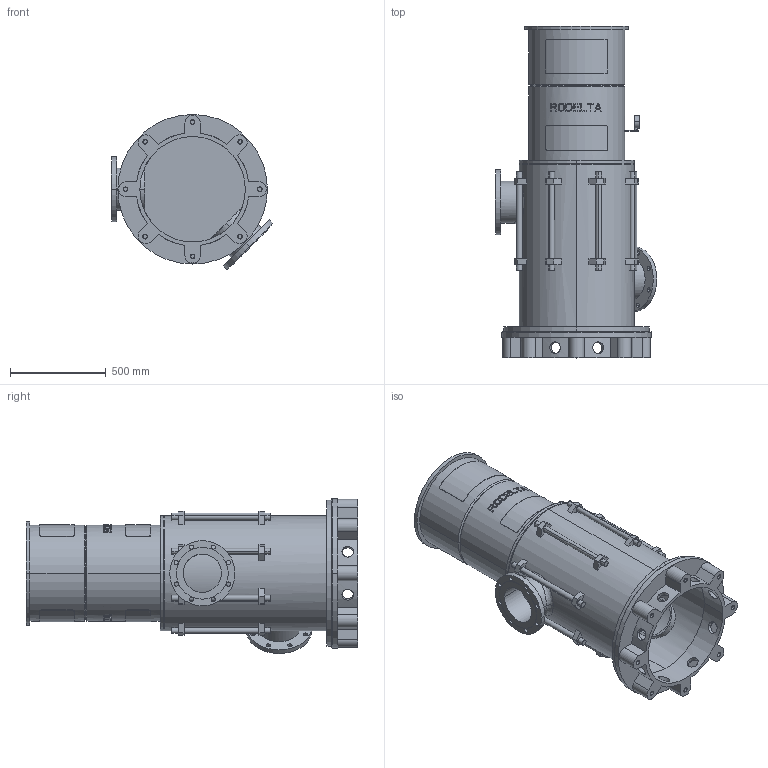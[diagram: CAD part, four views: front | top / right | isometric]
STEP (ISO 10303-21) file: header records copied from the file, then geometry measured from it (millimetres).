
FILE_DESCRIPTION((''),'2;1');
FILE_NAME('LS8_1TR_0GR','2025-10-15T15:16:37',('Lyritlocal'),(''),'CREO PARAMETRIC BY PTC INC, 2022014','CREO PARAMETRIC BY PTC INC, 2022014','');
FILE_SCHEMA(('CONFIG_CONTROL_DESIGN'));
Length unit declared in the file: millimetre
Products named in the file (1): LS8_1TR_0GR
Bounding box: 843.61 x 1730 x 808.61 mm (x, y, z)
Volume: 65153748.9 mm3; surface area: 8674256.6 mm2
Topology: 3 solids, 11 shells, 715 faces, 1854 edges, 1230 vertices
Faces by surface type: plane 440, cylinder 259, cone 12, bspline 4
Entity records: 23418 total; most frequent: CARTESIAN_POINT 5985, ORIENTED_EDGE 3676, DIRECTION 3432, EDGE_CURVE 1854, AXIS2_PLACEMENT_3D 1278, VERTEX_POINT 1230, VECTOR 876, LINE 876
